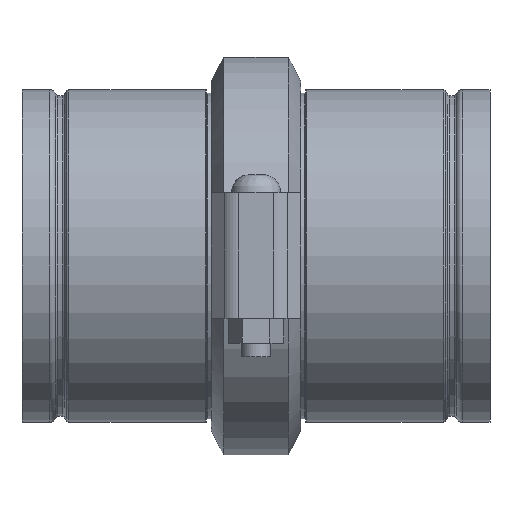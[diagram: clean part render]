
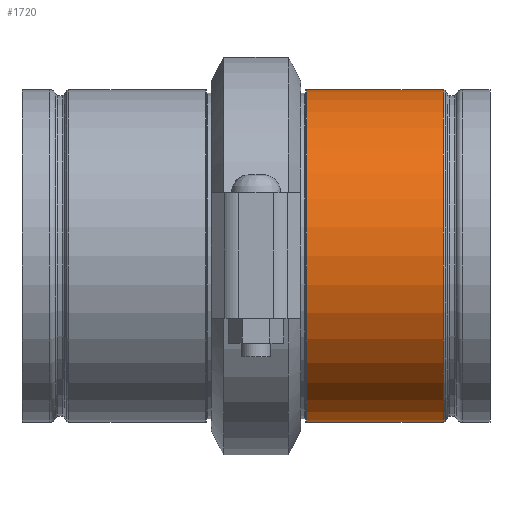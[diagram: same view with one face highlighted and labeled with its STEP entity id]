
A CAD part, top view. The second image highlights one B-rep face of the part: STEP entity #1720.
In plain terms, the highlighted cylindrical face has radius 109.537 mm (diameter 219.075 mm), a full revolution.
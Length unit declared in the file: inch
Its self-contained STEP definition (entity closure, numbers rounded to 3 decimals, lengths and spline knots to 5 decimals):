
#51=LINE('',#2818,#144);
#144=VECTOR('',#2263,4.3125);
#237=CYLINDRICAL_SURFACE('',#1944,4.3125);
#337=FACE_OUTER_BOUND('',#433,.T.);
#433=EDGE_LOOP('',(#1195,#1196,#1197,#1198,#1199,#1200,#1201,#1202));
#572=CIRCLE('',#1940,4.3125);
#573=CIRCLE('',#1941,4.3125);
#575=CIRCLE('',#1943,4.3125);
#576=CIRCLE('',#1945,4.3125);
#577=CIRCLE('',#1946,4.3125);
#578=CIRCLE('',#1947,4.3125);
#713=VERTEX_POINT('',#2805);
#714=VERTEX_POINT('',#2806);
#715=VERTEX_POINT('',#2808);
#716=VERTEX_POINT('',#2813);
#717=VERTEX_POINT('',#2814);
#718=VERTEX_POINT('',#2816);
#900=EDGE_CURVE('',#713,#714,#572,.T.);
#901=EDGE_CURVE('',#714,#715,#573,.T.);
#903=EDGE_CURVE('',#715,#713,#575,.T.);
#904=EDGE_CURVE('',#716,#717,#576,.T.);
#905=EDGE_CURVE('',#718,#716,#577,.T.);
#906=EDGE_CURVE('',#718,#714,#51,.T.);
#907=EDGE_CURVE('',#717,#718,#578,.T.);
#1195=ORIENTED_EDGE('',*,*,#904,.F.);
#1196=ORIENTED_EDGE('',*,*,#905,.F.);
#1197=ORIENTED_EDGE('',*,*,#906,.T.);
#1198=ORIENTED_EDGE('',*,*,#900,.F.);
#1199=ORIENTED_EDGE('',*,*,#903,.F.);
#1200=ORIENTED_EDGE('',*,*,#901,.F.);
#1201=ORIENTED_EDGE('',*,*,#906,.F.);
#1202=ORIENTED_EDGE('',*,*,#907,.F.);
#1720=ADVANCED_FACE('',(#337),#237,.T.);
#1940=AXIS2_PLACEMENT_3D('',#2807,#2249,#2250);
#1941=AXIS2_PLACEMENT_3D('',#2809,#2251,#2252);
#1943=AXIS2_PLACEMENT_3D('',#2811,#2255,#2256);
#1944=AXIS2_PLACEMENT_3D('',#2812,#2257,#2258);
#1945=AXIS2_PLACEMENT_3D('',#2815,#2259,#2260);
#1946=AXIS2_PLACEMENT_3D('',#2817,#2261,#2262);
#1947=AXIS2_PLACEMENT_3D('',#2819,#2264,#2265);
#2249=DIRECTION('center_axis',(-1.,0.,0.));
#2250=DIRECTION('ref_axis',(0.,-1.,0.));
#2251=DIRECTION('center_axis',(-1.,0.,0.));
#2252=DIRECTION('ref_axis',(0.,-1.,0.));
#2255=DIRECTION('center_axis',(-1.,0.,0.));
#2256=DIRECTION('ref_axis',(0.,-1.,0.));
#2257=DIRECTION('center_axis',(1.,0.,0.));
#2258=DIRECTION('ref_axis',(0.,1.,0.));
#2259=DIRECTION('center_axis',(1.,0.,0.));
#2260=DIRECTION('ref_axis',(0.,-1.,0.));
#2261=DIRECTION('center_axis',(1.,0.,0.));
#2262=DIRECTION('ref_axis',(0.,-1.,0.));
#2263=DIRECTION('',(-1.,0.,0.));
#2264=DIRECTION('center_axis',(1.,0.,0.));
#2265=DIRECTION('ref_axis',(0.,-1.,0.));
#2805=CARTESIAN_POINT('',(1.249,4.3125,0.));
#2806=CARTESIAN_POINT('',(1.249,-4.3125,0.));
#2807=CARTESIAN_POINT('Origin',(1.249,0.,0.));
#2808=CARTESIAN_POINT('',(1.249,0.,4.3125));
#2809=CARTESIAN_POINT('Origin',(1.249,0.,0.));
#2811=CARTESIAN_POINT('Origin',(1.249,0.,0.));
#2812=CARTESIAN_POINT('Origin',(3.01773,0.,0.));
#2813=CARTESIAN_POINT('',(4.78523,4.3125,0.));
#2814=CARTESIAN_POINT('',(4.78523,0.,4.3125));
#2815=CARTESIAN_POINT('Origin',(4.78523,0.,0.));
#2816=CARTESIAN_POINT('',(4.78523,-4.3125,0.));
#2817=CARTESIAN_POINT('Origin',(4.78523,0.,0.));
#2818=CARTESIAN_POINT('',(3.01773,-4.3125,0.));
#2819=CARTESIAN_POINT('Origin',(4.78523,0.,0.));
